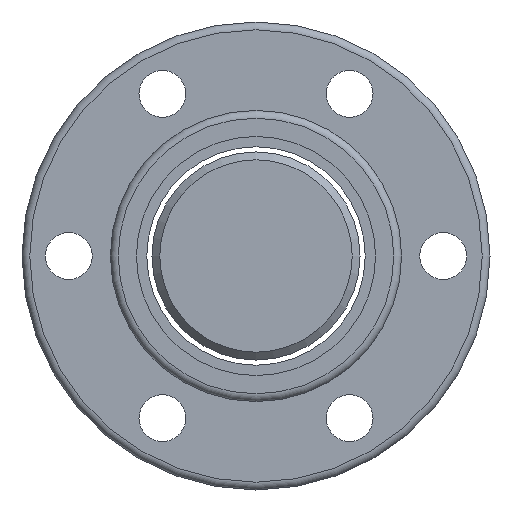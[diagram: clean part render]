
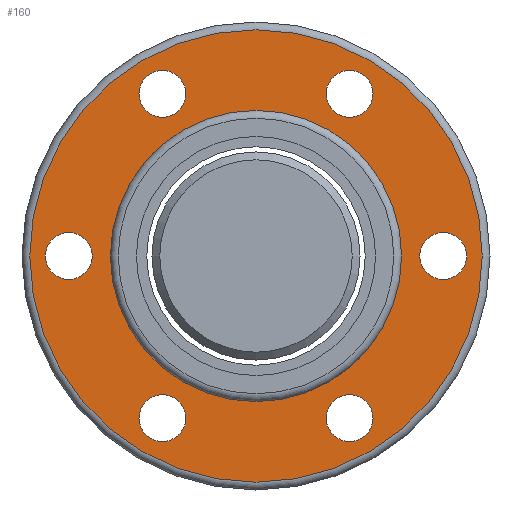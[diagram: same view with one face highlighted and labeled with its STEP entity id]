
A CAD part, left-side view. The second image highlights one B-rep face of the part: STEP entity #160.
In plain terms, the highlighted planar face has unit normal (-1, 0, 0).
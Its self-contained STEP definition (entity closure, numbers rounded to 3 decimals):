
#160=ADVANCED_FACE('',(#244,#245,#246,#247,#248,#249,#327,#250),#205,.T.);
#205=PLANE('',#812);
#244=FACE_BOUND('',#375,.T.);
#245=FACE_BOUND('',#376,.T.);
#246=FACE_BOUND('',#377,.T.);
#247=FACE_BOUND('',#378,.T.);
#248=FACE_BOUND('',#379,.T.);
#249=FACE_BOUND('',#380,.T.);
#250=FACE_BOUND('',#382,.T.);
#327=FACE_OUTER_BOUND('',#381,.T.);
#375=EDGE_LOOP('',(#497));
#376=EDGE_LOOP('',(#498));
#377=EDGE_LOOP('',(#499));
#378=EDGE_LOOP('',(#500));
#379=EDGE_LOOP('',(#501));
#380=EDGE_LOOP('',(#502));
#381=EDGE_LOOP('',(#503));
#382=EDGE_LOOP('',(#504));
#497=ORIENTED_EDGE('',*,*,#664,.F.);
#498=ORIENTED_EDGE('',*,*,#665,.F.);
#499=ORIENTED_EDGE('',*,*,#666,.F.);
#500=ORIENTED_EDGE('',*,*,#667,.F.);
#501=ORIENTED_EDGE('',*,*,#668,.F.);
#502=ORIENTED_EDGE('',*,*,#669,.F.);
#503=ORIENTED_EDGE('',*,*,#670,.T.);
#504=ORIENTED_EDGE('',*,*,#662,.F.);
#601=VERTEX_POINT('',#1173);
#603=VERTEX_POINT('',#1178);
#604=VERTEX_POINT('',#1180);
#605=VERTEX_POINT('',#1182);
#606=VERTEX_POINT('',#1184);
#607=VERTEX_POINT('',#1186);
#608=VERTEX_POINT('',#1188);
#609=VERTEX_POINT('',#1190);
#662=EDGE_CURVE('',#601,#601,#723,.T.);
#664=EDGE_CURVE('',#603,#603,#725,.T.);
#665=EDGE_CURVE('',#604,#604,#726,.T.);
#666=EDGE_CURVE('',#605,#605,#727,.T.);
#667=EDGE_CURVE('',#606,#606,#728,.T.);
#668=EDGE_CURVE('',#607,#607,#729,.T.);
#669=EDGE_CURVE('',#608,#608,#730,.T.);
#670=EDGE_CURVE('',#609,#609,#731,.T.);
#723=CIRCLE('',#802,28.);
#725=CIRCLE('',#805,4.5);
#726=CIRCLE('',#806,4.5);
#727=CIRCLE('',#807,4.5);
#728=CIRCLE('',#808,4.5);
#729=CIRCLE('',#809,4.5);
#730=CIRCLE('',#810,4.5);
#731=CIRCLE('',#811,43.5);
#802=AXIS2_PLACEMENT_3D('',#1172,#954,#955);
#805=AXIS2_PLACEMENT_3D('',#1177,#960,#961);
#806=AXIS2_PLACEMENT_3D('',#1179,#962,#963);
#807=AXIS2_PLACEMENT_3D('',#1181,#964,#965);
#808=AXIS2_PLACEMENT_3D('',#1183,#966,#967);
#809=AXIS2_PLACEMENT_3D('',#1185,#968,#969);
#810=AXIS2_PLACEMENT_3D('',#1187,#970,#971);
#811=AXIS2_PLACEMENT_3D('',#1189,#972,#973);
#812=AXIS2_PLACEMENT_3D('',#1191,#974,#975);
#954=DIRECTION('',(-1.,0.,0.));
#955=DIRECTION('',(0.,0.,1.));
#960=DIRECTION('',(-1.,0.,0.));
#961=DIRECTION('',(0.,0.,1.));
#962=DIRECTION('',(-1.,0.,0.));
#963=DIRECTION('',(0.,0.,1.));
#964=DIRECTION('',(-1.,0.,0.));
#965=DIRECTION('',(0.,0.,1.));
#966=DIRECTION('',(-1.,0.,0.));
#967=DIRECTION('',(0.,0.,1.));
#968=DIRECTION('',(-1.,0.,0.));
#969=DIRECTION('',(0.,0.,1.));
#970=DIRECTION('',(-1.,0.,0.));
#971=DIRECTION('',(0.,0.,1.));
#972=DIRECTION('',(-1.,0.,0.));
#973=DIRECTION('',(0.,0.,1.));
#974=DIRECTION('',(-1.,0.,0.));
#975=DIRECTION('',(0.,0.,1.));
#1172=CARTESIAN_POINT('',(-30.,0.,0.));
#1173=CARTESIAN_POINT('',(-30.,0.,28.));
#1177=CARTESIAN_POINT('',(-30.,18.,-31.177));
#1178=CARTESIAN_POINT('',(-30.,18.,-26.677));
#1179=CARTESIAN_POINT('',(-30.,-18.,-31.177));
#1180=CARTESIAN_POINT('',(-30.,-18.,-26.677));
#1181=CARTESIAN_POINT('',(-30.,-36.,0.));
#1182=CARTESIAN_POINT('',(-30.,-36.,4.5));
#1183=CARTESIAN_POINT('',(-30.,-18.,31.177));
#1184=CARTESIAN_POINT('',(-30.,-18.,35.677));
#1185=CARTESIAN_POINT('',(-30.,18.,31.177));
#1186=CARTESIAN_POINT('',(-30.,18.,35.677));
#1187=CARTESIAN_POINT('',(-30.,36.,0.));
#1188=CARTESIAN_POINT('',(-30.,36.,4.5));
#1189=CARTESIAN_POINT('',(-30.,0.,0.));
#1190=CARTESIAN_POINT('',(-30.,0.,43.5));
#1191=CARTESIAN_POINT('',(-30.,35.75,0.));
